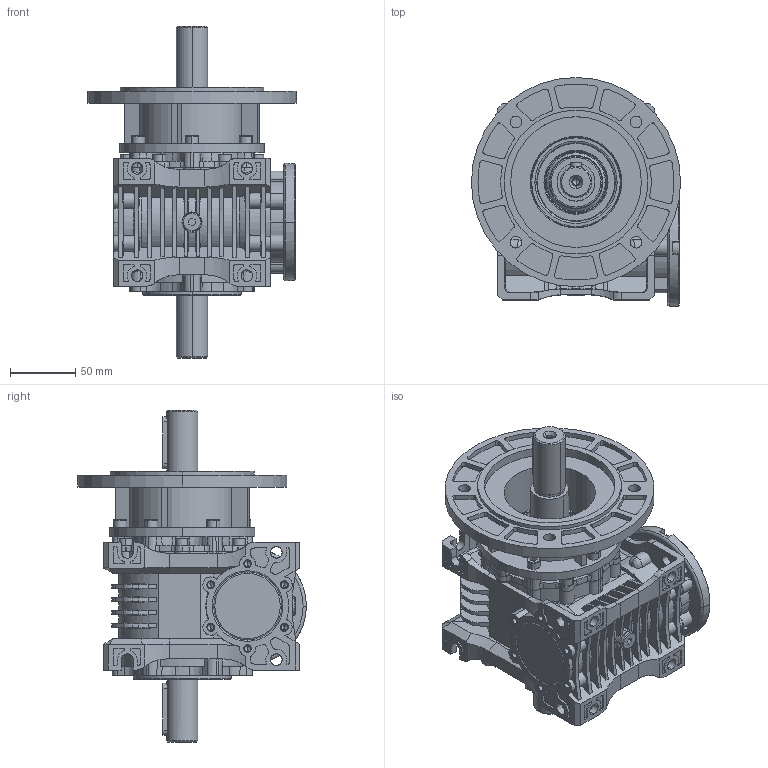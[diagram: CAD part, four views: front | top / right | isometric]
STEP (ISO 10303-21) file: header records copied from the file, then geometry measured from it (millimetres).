
FILE_DESCRIPTION (( 'STEP AP203' ), '1' );
FILE_NAME ('MR-50_90-11-K160_2-WD_2-3D.STEP', '2024-02-08T10:57:10', ( '' ), ( '' ), 'SwSTEP 2.0', 'SolidWorks 2022', '' );
FILE_SCHEMA (( 'CONFIG_CONTROL_DESIGN' ));
Length unit declared in the file: millimetre
Products named in the file (1): MR-50_90-11-K160_2-WD_2-3D
Bounding box: 160 x 175 x 254 mm (x, y, z)
Volume: 1504575 mm3; surface area: 295071.2 mm2
Topology: 1 solids, 54 shells, 3189 faces, 8356 edges, 5285 vertices
Faces by surface type: plane 1184, cone 961, cylinder 775, torus 172, bspline 97
Entity records: 116949 total; most frequent: CARTESIAN_POINT 39030, DIRECTION 16585, ORIENTED_EDGE 16460, EDGE_CURVE 8230, AXIS2_PLACEMENT_3D 6334, VERTEX_POINT 5285, LINE 3917, VECTOR 3917
